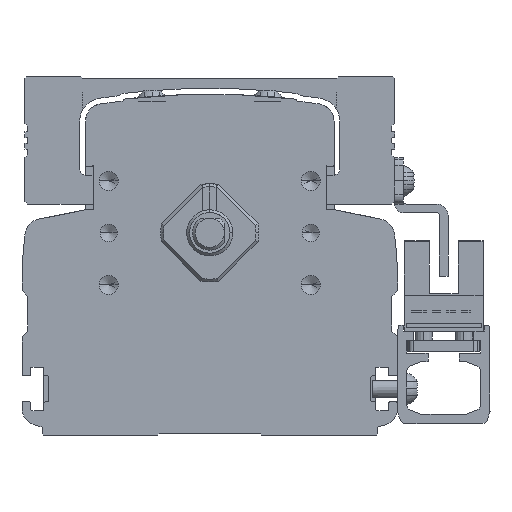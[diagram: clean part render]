
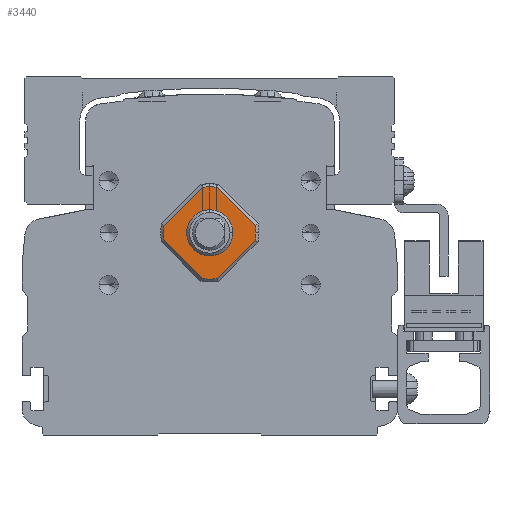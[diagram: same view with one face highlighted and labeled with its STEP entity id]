
A CAD part, front view. The second image highlights one B-rep face of the part: STEP entity #3440.
In plain terms, the highlighted planar face has unit normal (0, -1, 0).
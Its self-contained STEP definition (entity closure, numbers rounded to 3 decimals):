
#3440=ADVANCED_FACE('',(#8420,#8421),#8422,.T.);
#8420=FACE_OUTER_BOUND('',#15746,.T.);
#8421=FACE_BOUND('',#15747,.T.);
#8422=PLANE('',#15748);
#15746=EDGE_LOOP('',(#24980,#24981,#24982,#24983,#24984,#24985,#24986,#24987,#24988,#24989));
#15747=EDGE_LOOP('',(#24990,#24991));
#15748=AXIS2_PLACEMENT_3D('',#24992,#24993,#24994);
#24980=ORIENTED_EDGE('',*,*,#43902,.T.);
#24981=ORIENTED_EDGE('',*,*,#43903,.T.);
#24982=ORIENTED_EDGE('',*,*,#43904,.T.);
#24983=ORIENTED_EDGE('',*,*,#43905,.T.);
#24984=ORIENTED_EDGE('',*,*,#43906,.T.);
#24985=ORIENTED_EDGE('',*,*,#43907,.T.);
#24986=ORIENTED_EDGE('',*,*,#43908,.T.);
#24987=ORIENTED_EDGE('',*,*,#43530,.T.);
#24988=ORIENTED_EDGE('',*,*,#43909,.T.);
#24989=ORIENTED_EDGE('',*,*,#43910,.T.);
#24990=ORIENTED_EDGE('',*,*,#43911,.T.);
#24991=ORIENTED_EDGE('',*,*,#43912,.T.);
#24992=CARTESIAN_POINT('',(300.,-67.,9.899));
#24993=DIRECTION('',(0.,-1.0,0.));
#24994=DIRECTION('',(1.0,0.,0.));
#43530=EDGE_CURVE('',#52514,#52512,#52515,.F.);
#43902=EDGE_CURVE('',#53143,#53144,#53145,.F.);
#43903=EDGE_CURVE('',#53144,#53146,#53147,.T.);
#43904=EDGE_CURVE('',#53146,#53148,#53149,.F.);
#43905=EDGE_CURVE('',#53148,#53150,#53151,.F.);
#43906=EDGE_CURVE('',#53150,#53152,#53153,.T.);
#43907=EDGE_CURVE('',#53152,#53154,#53155,.F.);
#43908=EDGE_CURVE('',#53154,#52514,#53156,.T.);
#43909=EDGE_CURVE('',#52512,#53157,#53158,.F.);
#43910=EDGE_CURVE('',#53157,#53143,#53159,.T.);
#43911=EDGE_CURVE('',#53160,#53161,#53162,.F.);
#43912=EDGE_CURVE('',#53161,#53160,#53163,.F.);
#52512=VERTEX_POINT('',#65111);
#52514=VERTEX_POINT('',#65114);
#52515=CIRCLE('',#65115,8.0);
#53143=VERTEX_POINT('',#66023);
#53144=VERTEX_POINT('',#66024);
#53145=CIRCLE('',#66025,8.0);
#53146=VERTEX_POINT('',#66026);
#53147=LINE('',#66027,#66028);
#53148=VERTEX_POINT('',#66029);
#53149=CIRCLE('',#66030,8.0);
#53150=VERTEX_POINT('',#66031);
#53151=CIRCLE('',#66032,8.0);
#53152=VERTEX_POINT('',#66033);
#53153=LINE('',#66034,#66035);
#53154=VERTEX_POINT('',#66036);
#53155=CIRCLE('',#66037,8.0);
#53156=LINE('',#66038,#66039);
#53157=VERTEX_POINT('',#66040);
#53158=CIRCLE('',#66041,8.0);
#53159=LINE('',#66042,#66043);
#53160=VERTEX_POINT('',#66044);
#53161=VERTEX_POINT('',#66045);
#53162=CIRCLE('',#66046,4.);
#53163=CIRCLE('',#66047,4.);
#65111=CARTESIAN_POINT('',(292.,-67.,0.));
#65114=CARTESIAN_POINT('',(292.106,-67.,1.298));
#65115=AXIS2_PLACEMENT_3D('',#79746,#79747,#79748);
#66023=CARTESIAN_POINT('',(298.702,-67.,-7.894));
#66024=CARTESIAN_POINT('',(301.298,-67.,-7.894));
#66025=AXIS2_PLACEMENT_3D('',#80184,#80185,#80186);
#66026=CARTESIAN_POINT('',(307.894,-67.,-1.298));
#66027=CARTESIAN_POINT('',(301.298,-67.,-7.894));
#66028=VECTOR('',#80187,1000.0);
#66029=CARTESIAN_POINT('',(308.,-67.,0.));
#66030=AXIS2_PLACEMENT_3D('',#80188,#80189,#80190);
#66031=CARTESIAN_POINT('',(307.894,-67.,1.298));
#66032=AXIS2_PLACEMENT_3D('',#80191,#80192,#80193);
#66033=CARTESIAN_POINT('',(301.298,-67.,7.894));
#66034=CARTESIAN_POINT('',(307.894,-67.,1.298));
#66035=VECTOR('',#80194,1000.0);
#66036=CARTESIAN_POINT('',(298.702,-67.,7.894));
#66037=AXIS2_PLACEMENT_3D('',#80195,#80196,#80197);
#66038=CARTESIAN_POINT('',(298.702,-67.,7.894));
#66039=VECTOR('',#80198,1000.0);
#66040=CARTESIAN_POINT('',(292.106,-67.,-1.298));
#66041=AXIS2_PLACEMENT_3D('',#80199,#80200,#80201);
#66042=CARTESIAN_POINT('',(292.106,-67.,-1.298));
#66043=VECTOR('',#80202,1000.0);
#66044=CARTESIAN_POINT('',(304.,-67.,0.));
#66045=CARTESIAN_POINT('',(296.,-67.,0.));
#66046=AXIS2_PLACEMENT_3D('',#80203,#80204,#80205);
#66047=AXIS2_PLACEMENT_3D('',#80206,#80207,#80208);
#79746=CARTESIAN_POINT('',(300.,-67.,0.));
#79747=DIRECTION('',(0.,1.0,0.));
#79748=DIRECTION('',(-1.0,0.,0.));
#80184=CARTESIAN_POINT('',(300.,-67.,0.));
#80185=DIRECTION('',(0.,1.0,0.));
#80186=DIRECTION('',(-1.0,0.,0.));
#80187=DIRECTION('',(0.707,0.,0.707));
#80188=CARTESIAN_POINT('',(300.,-67.,0.));
#80189=DIRECTION('',(0.,1.0,0.));
#80190=DIRECTION('',(-1.0,0.,0.));
#80191=CARTESIAN_POINT('',(300.,-67.,0.));
#80192=DIRECTION('',(0.,1.0,0.));
#80193=DIRECTION('',(-1.0,0.,0.));
#80194=DIRECTION('',(-0.707,0.,0.707));
#80195=CARTESIAN_POINT('',(300.,-67.,0.));
#80196=DIRECTION('',(0.,1.0,0.));
#80197=DIRECTION('',(-1.0,0.,0.));
#80198=DIRECTION('',(-0.707,0.,-0.707));
#80199=CARTESIAN_POINT('',(300.,-67.,0.));
#80200=DIRECTION('',(0.,1.0,0.));
#80201=DIRECTION('',(-1.0,0.,0.));
#80202=DIRECTION('',(0.707,0.,-0.707));
#80203=CARTESIAN_POINT('',(300.,-67.,0.));
#80204=DIRECTION('',(0.,-1.0,0.));
#80205=DIRECTION('',(1.0,0.,0.));
#80206=CARTESIAN_POINT('',(300.,-67.,0.));
#80207=DIRECTION('',(0.,-1.0,0.));
#80208=DIRECTION('',(1.0,0.,0.));
